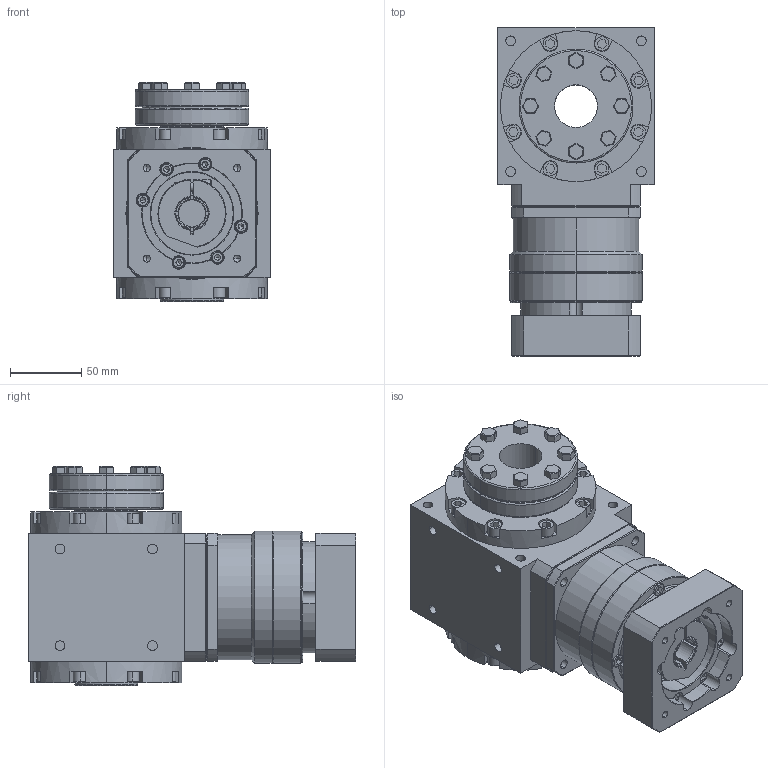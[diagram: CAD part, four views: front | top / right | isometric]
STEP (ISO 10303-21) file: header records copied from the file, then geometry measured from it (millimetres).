
FILE_DESCRIPTION (( 'STEP AP203' ), '1' );
FILE_NAME ('AAW110AS-L1-RFHP 19-70-90-M6.STEP', '2024-12-24T05:33:31', ( '' ), ( '' ), 'SwSTEP 2.0', 'SolidWorks 2021', '' );
FILE_SCHEMA (( 'CONFIG_CONTROL_DESIGN' ));
Length unit declared in the file: millimetre
Products named in the file (3): VRB-090-L1-S2-P1 19-70-90-M6; AAW110AS-L1-RFHP 19-70-90-M6; AAW110AS-RFHP
Assembly tree (2 placements, depth 2):
  AAW110AS-L1-RFHP 19-70-90-M6
    AAW110AS-RFHP
    VRB-090-L1-S2-P1 19-70-90-M6
Bounding box: 110 x 230.5 x 154 mm (x, y, z)
Volume: 2065431.4 mm3; surface area: 231844.3 mm2
Topology: 28 solids, 28 shells, 1176 faces, 2847 edges, 1786 vertices
Faces by surface type: plane 629, cylinder 360, cone 149, torus 26, bspline 12
Entity records: 35656 total; most frequent: CARTESIAN_POINT 7583, DIRECTION 6019, ORIENTED_EDGE 5590, EDGE_CURVE 2795, AXIS2_PLACEMENT_3D 2224, VERTEX_POINT 1786, LINE 1571, VECTOR 1571
